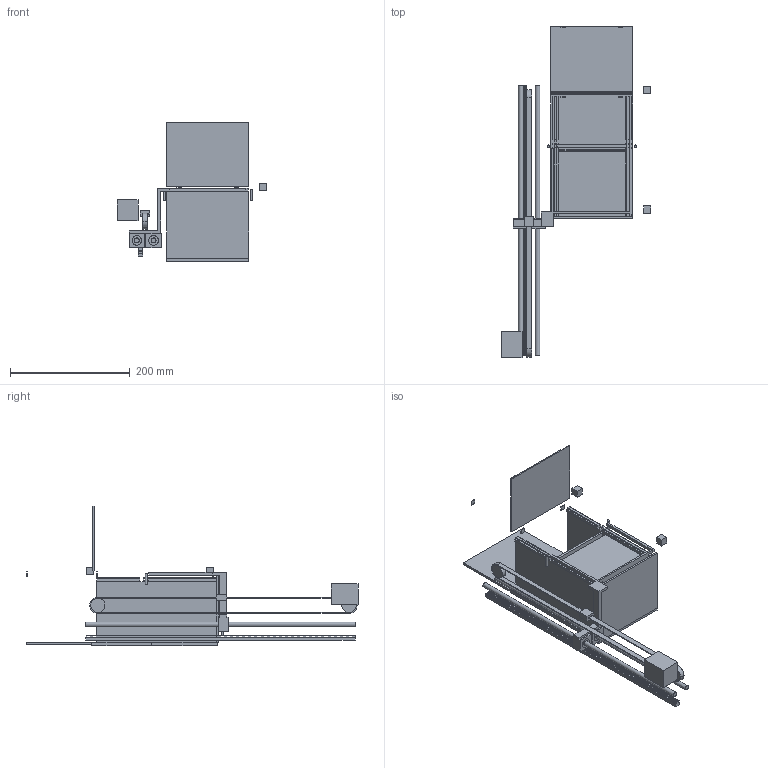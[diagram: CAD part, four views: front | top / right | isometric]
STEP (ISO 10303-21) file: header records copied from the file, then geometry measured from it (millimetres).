
FILE_DESCRIPTION(('FreeCAD Model'),'2;1');
FILE_NAME('Open CASCADE Shape Model','2026-10-19T11:28:06',('FreeCAD'),( 'FreeCAD'),'Open CASCADE STEP processor 7.8','FreeCAD','Unknown');
FILE_SCHEMA(('AUTOMOTIVE_DESIGN { 1 0 10303 214 1 1 1 1 }'));
Length unit declared in the file: millimetre
Products named in the file (1): Open CASCADE STEP translator 7.8 25
Bounding box: 250.5 x 555 x 234 mm (x, y, z)
Volume: 1918876.3 mm3; surface area: 479418.9 mm2
Topology: 33 solids, 33 shells, 1182 faces, 3345 edges, 2230 vertices
Faces by surface type: plane 1164, cylinder 18
Full cylindrical faces by diameter (mm): 4 x2, 8 x2, 8.5 x2, 16 x4, 24 x2
Entity records: 37471 total; most frequent: CARTESIAN_POINT 6758, ORIENTED_EDGE 6690, DIRECTION 5747, EDGE_CURVE 3345, LINE 3309, VECTOR 3309, VERTEX_POINT 2230, AXIS2_PLACEMENT_3D 1219
